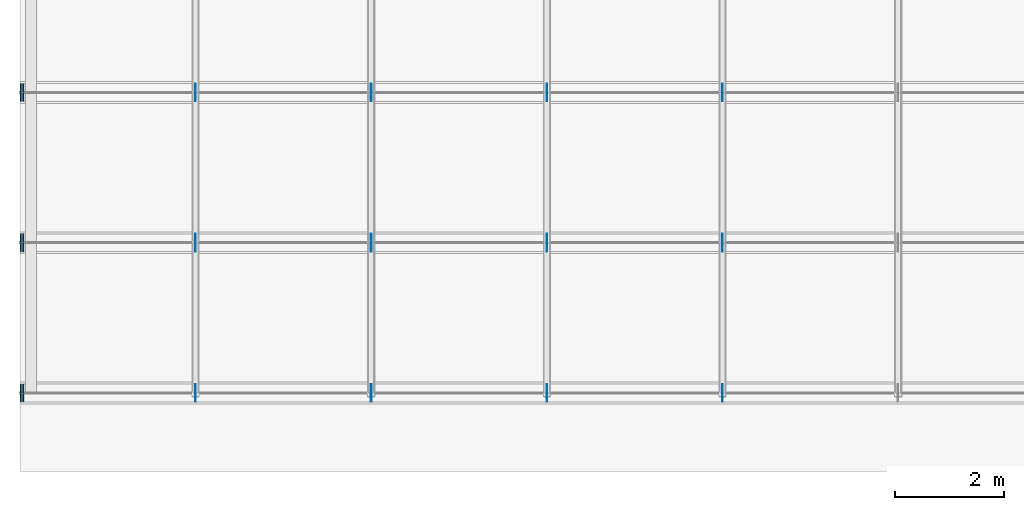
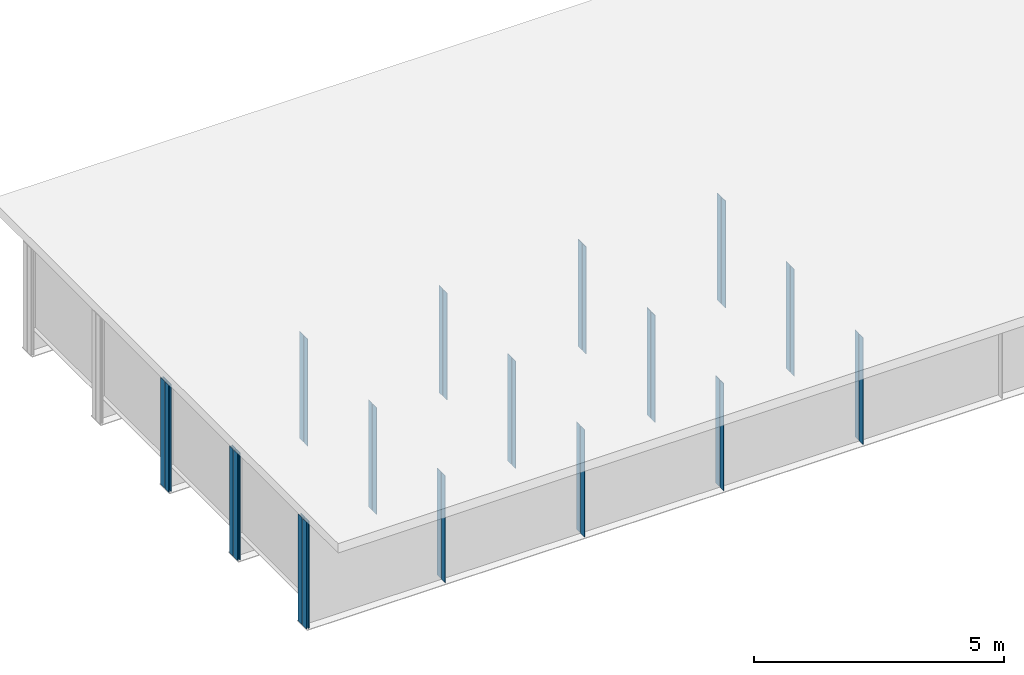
# One storey, part 3 of 20: 36 plates.
"""IFC4 building model written with IfcOpenShell, lengths in metres."""

import ifcopenshell
import ifcopenshell.guid

model = None  # the IFC model being written
_history = None  # IfcOwnerHistory: only IFC2X3 demands one
_inside = {}  # id of a spatial element -> (the spatial element, [elements in it])
_under = {}  # id of a project, library or spatial element -> (it, [spatial elements below it])
_declared = {}  # id of a project -> (the project, [libraries it declares])
_typed = {}  # id of a type object -> (the type object, [elements of that type])
_made_of = {}  # id of a material, layer set ... -> (it, [elements and type objects made of it])


def new_model(schema):
    """Start an empty IFC model of exactly this schema.

    Asked for "IFC4X3", IfcOpenShell would pick the latest addendum, in which some entities
    have other attributes; the version numbers below select the first issue.
    IFC2X3 requires an IfcOwnerHistory on every rooted entity: one is made here for all.
    """
    global model, _history
    if schema == "IFC4X3":
        model = ifcopenshell.file(schema_version=(4, 3, 0, 0))
    else:
        model = ifcopenshell.file(schema=schema)
    _inside.clear()
    _under.clear()
    _declared.clear()
    _typed.clear()
    _made_of.clear()
    _history = None
    if model.schema == "IFC2X3":
        org = make("IfcOrganization", Name="unknown")
        user = make(
            "IfcPersonAndOrganization",
            ThePerson=make("IfcPerson", FamilyName="unknown"),
            TheOrganization=org,
        )
        app = make(
            "IfcApplication",
            ApplicationDeveloper=org,
            Version="unknown",
            ApplicationFullName="unknown",
            ApplicationIdentifier="unknown",
        )
        _history = make(
            "IfcOwnerHistory",
            OwningUser=user,
            OwningApplication=app,
            ChangeAction="ADDED",
            CreationDate=0,
        )
    return model


def make(cls, **values):
    """One entity of the class cls with the attributes given. An attribute that is None is left unset."""
    return model.create_entity(
        cls, **{name: value for name, value in values.items() if value is not None}
    )


def rooted(cls, **values):
    """An entity with a GlobalId (a new one), such as an element, a storey or a relation."""
    return make(cls, GlobalId=ifcopenshell.guid.new(), OwnerHistory=_history, **values)


def si_unit(unit_type, name, prefix=None):
    """IfcSIUnit, for example si_unit("LENGTHUNIT", "METRE", prefix="MILLI")."""
    return make("IfcSIUnit", UnitType=unit_type, Prefix=prefix, Name=name)


def assignment(units):
    """IfcUnitAssignment: the units of a project."""
    return None if units is None else make("IfcUnitAssignment", Units=units)


def point(xyz):
    """IfcCartesianPoint."""
    return None if xyz is None else make("IfcCartesianPoint", Coordinates=xyz)


def direction(xyz):
    """IfcDirection."""
    return None if xyz is None else make("IfcDirection", DirectionRatios=xyz)


def frame(location, z_axis=None, x_axis=None):
    """IfcAxis2Placement3D, a coordinate frame: its origin and axes. An axis left out is left unset."""
    return make(
        "IfcAxis2Placement3D",
        Location=point(location),
        Axis=direction(z_axis),
        RefDirection=direction(x_axis),
    )


def frame_2d(location, x_axis=None):
    """IfcAxis2Placement2D, a coordinate frame in the plane: its origin and x axis."""
    return make(
        "IfcAxis2Placement2D", Location=point(location), RefDirection=direction(x_axis)
    )


def origin():
    """The frame at (0, 0, 0) with its axes left unset."""
    return frame((0.0, 0.0, 0.0))


def origin_with_axes():
    """The frame at (0, 0, 0) with the z axis (0, 0, 1) and the x axis (1, 0, 0) written out."""
    return frame((0.0, 0.0, 0.0), z_axis=(0.0, 0.0, 1.0), x_axis=(1.0, 0.0, 0.0))


def origin_2d_with_axis():
    """The frame at (0, 0) in the plane with the x axis (1, 0) written out."""
    return frame_2d((0.0, 0.0), x_axis=(1.0, 0.0))


def place(relative_to, where):
    """IfcLocalPlacement: puts the frame where relative to a parent placement (None: the world)."""
    return make(
        "IfcLocalPlacement", PlacementRelTo=relative_to, RelativePlacement=where
    )


def context(
    kind, dimensions, precision=None, world=None, true_north=None, identifier=None
):
    """IfcGeometricRepresentationContext, for example the 3D "Model" context."""
    return make(
        "IfcGeometricRepresentationContext",
        ContextIdentifier=identifier,
        ContextType=kind,
        CoordinateSpaceDimension=dimensions,
        Precision=precision,
        WorldCoordinateSystem=world,
        TrueNorth=true_north,
    )


def subcontext(parent, identifier, kind, view, scale=None):
    """IfcGeometricRepresentationSubContext, for example "Body" below "Model"."""
    return make(
        "IfcGeometricRepresentationSubContext",
        ContextIdentifier=identifier,
        ContextType=kind,
        ParentContext=parent,
        TargetScale=scale,
        TargetView=view,
    )


def project(units=None, contexts=None):
    """IfcProject with its units and contexts."""
    return rooted(
        "IfcProject",
        Name="project",
        RepresentationContexts=contexts,
        UnitsInContext=assignment(units),
    )


def spatial(cls, under=None, at=None, **own):
    """A site, building, storey or space (cls), placed at a placement, below another one or the project."""
    s = rooted(cls, ObjectPlacement=at, **own)
    if under is not None:
        _under.setdefault(under.id(), (under, []))[1].append(s)
    return s


def profile(cls, at=None, kind="AREA", **sizes):
    """A parametric profile (cls). Its sizes go by their IFC names, for example OverallWidth=200.0."""
    return make(cls, ProfileType=kind, Position=at, **sizes)


def rectangle(**sizes):
    """IfcRectangleProfileDef."""
    return profile("IfcRectangleProfileDef", **sizes)


def extrude(swept, where, along, depth):
    """IfcExtrudedAreaSolid: the profile swept, set in the frame where, extruded along a direction by depth."""
    return make(
        "IfcExtrudedAreaSolid",
        SweptArea=swept,
        Position=where,
        ExtrudedDirection=direction(along),
        Depth=depth,
    )


def shape(context_of_items, identifier, shape_type, items):
    """IfcShapeRepresentation: the items that make up one representation, for example the "Body"."""
    return make(
        "IfcShapeRepresentation",
        ContextOfItems=context_of_items,
        RepresentationIdentifier=identifier,
        RepresentationType=shape_type,
        Items=items,
    )


def made_of(thing, what):
    """Note that an element or type object is made of a material, layer set ...; save() writes the relation."""
    if what is not None:
        _made_of.setdefault(what.id(), (what, []))[1].append(thing)
    return thing


def element(
    cls,
    number,
    at=None,
    inside=None,
    cuts=None,
    type_object=None,
    material=None,
    context=None,
    identifier="Body",
    shape_type=None,
    held_by="IfcProductDefinitionShape",
    body=None,
    shapes=None,
    **own,
):
    """One element of the class cls, such as IfcWall. Its Tag is "e" and its number.

    at: its placement. inside: the storey or other place that contains it. cuts: it is an
    opening in that element (IfcRelVoidsElement). A single representation is given by context,
    identifier, shape_type and body (its items); several are given by shapes. held_by: the class
    of the entity that holds the representations. save() writes the other relations.
    """
    e = rooted(cls, Tag="e%d" % number, ObjectPlacement=at, **own)
    if body is not None:
        shapes = [shape(context, identifier, shape_type, body)]
    if shapes is not None:
        e.Representation = make(held_by, Representations=shapes)
    if inside is not None:
        _inside.setdefault(inside.id(), (inside, []))[1].append(e)
    if cuts is not None:
        rooted(
            "IfcRelVoidsElement", RelatingBuildingElement=cuts, RelatedOpeningElement=e
        )
    if type_object is not None:
        _typed.setdefault(type_object.id(), (type_object, []))[1].append(e)
    return made_of(e, material)


def aggregate(whole, parts):
    """IfcRelAggregates: a whole, such as a stair, and the parts it consists of."""
    return rooted("IfcRelAggregates", RelatingObject=whole, RelatedObjects=parts)


def save(model, path):
    """Write the relations noted so far, then the file.

    IfcRelAggregates (storeys below a building ...), IfcRelContainedInSpatialStructure (elements
    in a storey), IfcRelDefinesByType, IfcRelAssociatesMaterial and IfcRelDeclares: one each for
    every whole, place, type object, material and project.
    """
    for whole, parts in _under.values():
        aggregate(whole, parts)
    for where, things in _inside.values():
        rooted(
            "IfcRelContainedInSpatialStructure",
            RelatedElements=things,
            RelatingStructure=where,
        )
    for kind, things in _typed.values():
        rooted("IfcRelDefinesByType", RelatedObjects=things, RelatingType=kind)
    for what, things in _made_of.values():
        rooted("IfcRelAssociatesMaterial", RelatedObjects=things, RelatingMaterial=what)
    for by, libraries in _declared.values():
        rooted("IfcRelDeclares", RelatingContext=by, RelatedDefinitions=libraries)
    model.write(path)


model = new_model("IFC4")

# Units and contexts
model_context = context("Model", 3, precision=1e-05, world=origin())
body_context = subcontext(model_context, "Body", "Model", "MODEL_VIEW")
ifc_project = project(units=[si_unit("LENGTHUNIT", "METRE"), si_unit("AREAUNIT", "SQUARE_METRE"), si_unit("VOLUMEUNIT", "CUBIC_METRE"), si_unit("PLANEANGLEUNIT", "RADIAN")], contexts=[model_context])

# Site, building, storey
site_placement = place(None, origin_with_axes())
site = spatial("IfcSite", under=ifc_project, at=site_placement, Name="Default Site")
building_placement = place(site_placement, origin_with_axes())
building = spatial("IfcBuilding", under=site, at=building_placement, Name="Bridge Structure")
storey_placement = place(building_placement, origin_with_axes())
storey = spatial("IfcBuildingStorey", under=building, at=storey_placement, Name="Superstructure")

# Plates
for number, where, z_axis, x_axis, name in (
    (1, (3.214, -5.41425, -1.307), (0.0, 0.0, 1.0), (1.0, 0.0, 0.0), "Intermediate Stiffener 1"),
    (2, (3.214, -5.58575, -1.307), (0.0, 0.0, 1.0), (1.0, 0.0, 0.0), "Intermediate Stiffener 1"),
    (3, (6.428, -5.41425, -1.307), (0.0, 0.0, 1.0), (1.0, 0.0, 0.0), "Intermediate Stiffener 1"),
    (4, (6.428, -5.58575, -1.307), (0.0, 0.0, 1.0), (1.0, 0.0, 0.0), "Intermediate Stiffener 1"),
    (5, (9.642, -5.41425, -1.307), (0.0, 0.0, 1.0), (1.0, 0.0, 0.0), "Intermediate Stiffener 1"),
    (6, (9.642, -5.58575, -1.307), (0.0, 0.0, 1.0), (1.0, 0.0, 0.0), "Intermediate Stiffener 1"),
    (7, (12.856, -5.41425, -1.307), (0.0, 0.0, 1.0), (1.0, 0.0, 0.0), "Intermediate Stiffener 1"),
    (8, (12.856, -5.58575, -1.307), (0.0, 0.0, 1.0), (1.0, 0.0, 0.0), "Intermediate Stiffener 1"),
):
    element("IfcPlate", number, at=place(storey_placement, frame(where, z_axis=z_axis, x_axis=x_axis)), inside=storey, Name=name, context=body_context, shape_type="SweptSolid", body=[
        extrude(rectangle(XDim=0.012, YDim=0.1535, at=origin_2d_with_axis()), origin_with_axes(), (0.0, 0.0, 1.0), 2.614),
    ])
for number, where, z_axis, x_axis, name in (
    (9, (0.01, -5.41425, -1.307), (0.0, 0.0, 1.0), (1.0, 0.0, 0.0), "End Stiffener 1"),
    (10, (0.01, -5.58575, -1.307), (0.0, 0.0, 1.0), (1.0, 0.0, 0.0), "End Stiffener 1"),
    (11, (0.06, -5.41425, -1.307), (0.0, 0.0, 1.0), (1.0, 0.0, 0.0), "End Stiffener 1"),
    (12, (0.06, -5.58575, -1.307), (0.0, 0.0, 1.0), (1.0, 0.0, 0.0), "End Stiffener 1"),
):
    element("IfcPlate", number, at=place(storey_placement, frame(where, z_axis=z_axis, x_axis=x_axis)), inside=storey, Name=name, context=body_context, shape_type="SweptSolid", body=[
        extrude(rectangle(XDim=0.02, YDim=0.1535, at=origin_2d_with_axis()), origin_with_axes(), (0.0, 0.0, 1.0), 2.614),
    ])
for number, where, z_axis, x_axis, name in (
    (13, (3.214, -2.66425, -1.307), (0.0, 0.0, 1.0), (1.0, 0.0, 0.0), "Intermediate Stiffener 2"),
    (14, (3.214, -2.83575, -1.307), (0.0, 0.0, 1.0), (1.0, 0.0, 0.0), "Intermediate Stiffener 2"),
    (15, (6.428, -2.66425, -1.307), (0.0, 0.0, 1.0), (1.0, 0.0, 0.0), "Intermediate Stiffener 2"),
    (16, (6.428, -2.83575, -1.307), (0.0, 0.0, 1.0), (1.0, 0.0, 0.0), "Intermediate Stiffener 2"),
    (17, (9.642, -2.66425, -1.307), (0.0, 0.0, 1.0), (1.0, 0.0, 0.0), "Intermediate Stiffener 2"),
    (18, (9.642, -2.83575, -1.307), (0.0, 0.0, 1.0), (1.0, 0.0, 0.0), "Intermediate Stiffener 2"),
    (19, (12.856, -2.66425, -1.307), (0.0, 0.0, 1.0), (1.0, 0.0, 0.0), "Intermediate Stiffener 2"),
    (20, (12.856, -2.83575, -1.307), (0.0, 0.0, 1.0), (1.0, 0.0, 0.0), "Intermediate Stiffener 2"),
):
    element("IfcPlate", number, at=place(storey_placement, frame(where, z_axis=z_axis, x_axis=x_axis)), inside=storey, Name=name, context=body_context, shape_type="SweptSolid", body=[
        extrude(rectangle(XDim=0.012, YDim=0.1535, at=origin_2d_with_axis()), origin_with_axes(), (0.0, 0.0, 1.0), 2.614),
    ])
for number, where, z_axis, x_axis, name in (
    (21, (0.01, -2.66425, -1.307), (0.0, 0.0, 1.0), (1.0, 0.0, 0.0), "End Stiffener 2"),
    (22, (0.01, -2.83575, -1.307), (0.0, 0.0, 1.0), (1.0, 0.0, 0.0), "End Stiffener 2"),
    (23, (0.06, -2.66425, -1.307), (0.0, 0.0, 1.0), (1.0, 0.0, 0.0), "End Stiffener 2"),
    (24, (0.06, -2.83575, -1.307), (0.0, 0.0, 1.0), (1.0, 0.0, 0.0), "End Stiffener 2"),
):
    element("IfcPlate", number, at=place(storey_placement, frame(where, z_axis=z_axis, x_axis=x_axis)), inside=storey, Name=name, context=body_context, shape_type="SweptSolid", body=[
        extrude(rectangle(XDim=0.02, YDim=0.1535, at=origin_2d_with_axis()), origin_with_axes(), (0.0, 0.0, 1.0), 2.614),
    ])
for number, where, z_axis, x_axis, name in (
    (25, (3.214, 0.08575, -1.307), (0.0, 0.0, 1.0), (1.0, 0.0, 0.0), "Intermediate Stiffener 3"),
    (26, (3.214, -0.08575, -1.307), (0.0, 0.0, 1.0), (1.0, 0.0, 0.0), "Intermediate Stiffener 3"),
    (27, (6.428, 0.08575, -1.307), (0.0, 0.0, 1.0), (1.0, 0.0, 0.0), "Intermediate Stiffener 3"),
    (28, (6.428, -0.08575, -1.307), (0.0, 0.0, 1.0), (1.0, 0.0, 0.0), "Intermediate Stiffener 3"),
    (29, (9.642, 0.08575, -1.307), (0.0, 0.0, 1.0), (1.0, 0.0, 0.0), "Intermediate Stiffener 3"),
    (30, (9.642, -0.08575, -1.307), (0.0, 0.0, 1.0), (1.0, 0.0, 0.0), "Intermediate Stiffener 3"),
    (31, (12.856, 0.08575, -1.307), (0.0, 0.0, 1.0), (1.0, 0.0, 0.0), "Intermediate Stiffener 3"),
    (32, (12.856, -0.08575, -1.307), (0.0, 0.0, 1.0), (1.0, 0.0, 0.0), "Intermediate Stiffener 3"),
):
    element("IfcPlate", number, at=place(storey_placement, frame(where, z_axis=z_axis, x_axis=x_axis)), inside=storey, Name=name, context=body_context, shape_type="SweptSolid", body=[
        extrude(rectangle(XDim=0.012, YDim=0.1535, at=origin_2d_with_axis()), origin_with_axes(), (0.0, 0.0, 1.0), 2.614),
    ])
for number, where, z_axis, x_axis, name in (
    (33, (0.01, 0.08575, -1.307), (0.0, 0.0, 1.0), (1.0, 0.0, 0.0), "End Stiffener 3"),
    (34, (0.01, -0.08575, -1.307), (0.0, 0.0, 1.0), (1.0, 0.0, 0.0), "End Stiffener 3"),
    (35, (0.06, 0.08575, -1.307), (0.0, 0.0, 1.0), (1.0, 0.0, 0.0), "End Stiffener 3"),
    (36, (0.06, -0.08575, -1.307), (0.0, 0.0, 1.0), (1.0, 0.0, 0.0), "End Stiffener 3"),
):
    element("IfcPlate", number, at=place(storey_placement, frame(where, z_axis=z_axis, x_axis=x_axis)), inside=storey, Name=name, context=body_context, shape_type="SweptSolid", body=[
        extrude(rectangle(XDim=0.02, YDim=0.1535, at=origin_2d_with_axis()), origin_with_axes(), (0.0, 0.0, 1.0), 2.614),
    ])

save(model, "model.ifc")
